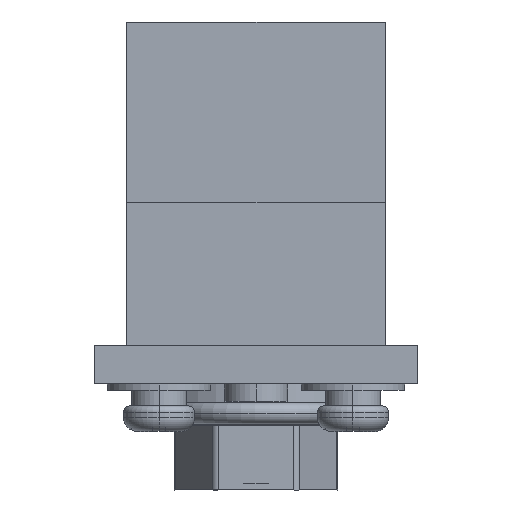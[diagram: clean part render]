
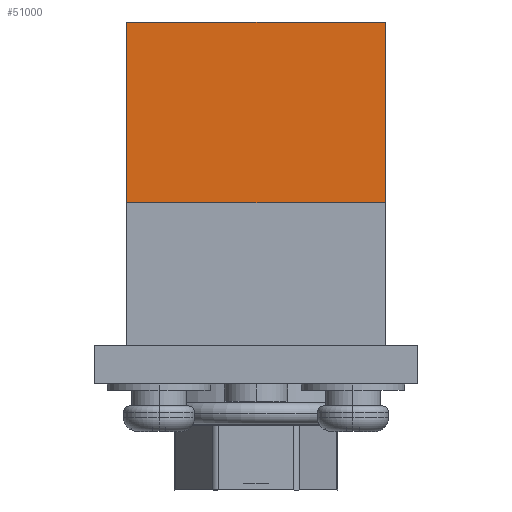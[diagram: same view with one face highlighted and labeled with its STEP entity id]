
A CAD part, left-side view. The second image highlights one B-rep face of the part: STEP entity #51000.
In plain terms, the highlighted planar face has unit normal (-1, 0, 0).
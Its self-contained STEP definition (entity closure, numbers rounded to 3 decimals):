
#49470=CARTESIAN_POINT('',(-27.488,66.46,28.));
#49480=VERTEX_POINT('',#49470);
#49510=CARTESIAN_POINT('',(-27.488,66.46,28.));
#49520=DIRECTION('',(0.,0.,-1.));
#49530=VECTOR('',#49520,1.);
#49540=LINE('',#49510,#49530);
#49550=CARTESIAN_POINT('',(-27.488,66.46,14.));
#49560=VERTEX_POINT('',#49550);
#49570=EDGE_CURVE('',#49480,#49560,#49540,.T.);
#50340=CARTESIAN_POINT('',(-27.488,46.46,28.));
#50350=VERTEX_POINT('',#50340);
#50380=CARTESIAN_POINT('',(-27.488,46.46,28.));
#50390=DIRECTION('',(0.,1.,0.));
#50400=VECTOR('',#50390,1.);
#50410=LINE('',#50380,#50400);
#50420=EDGE_CURVE('',#50350,#49480,#50410,.T.);
#50770=CARTESIAN_POINT('',(-27.488,66.46,28.));
#50780=DIRECTION('',(1.,0.,0.));
#50790=DIRECTION('',(0.,0.,1.));
#50800=AXIS2_PLACEMENT_3D('',#50770,#50780,#50790);
#50810=PLANE('',#50800);
#50820=ORIENTED_EDGE('',*,*,#49570,.T.);
#50830=ORIENTED_EDGE('',*,*,#50420,.T.);
#50840=CARTESIAN_POINT('',(-27.488,46.46,28.));
#50850=DIRECTION('',(0.,0.,-1.));
#50860=VECTOR('',#50850,1.);
#50870=LINE('',#50840,#50860);
#50880=CARTESIAN_POINT('',(-27.488,46.46,14.));
#50890=VERTEX_POINT('',#50880);
#50900=EDGE_CURVE('',#50350,#50890,#50870,.T.);
#50910=ORIENTED_EDGE('',*,*,#50900,.F.);
#50920=CARTESIAN_POINT('',(-27.488,46.46,14.));
#50930=DIRECTION('',(0.,1.,0.));
#50940=VECTOR('',#50930,1.);
#50950=LINE('',#50920,#50940);
#50960=EDGE_CURVE('',#50890,#49560,#50950,.T.);
#50970=ORIENTED_EDGE('',*,*,#50960,.F.);
#50980=EDGE_LOOP('',(#50970,#50910,#50830,#50820));
#50990=FACE_OUTER_BOUND('',#50980,.T.);
#51000=ADVANCED_FACE('',(#50990),#50810,.F.);
